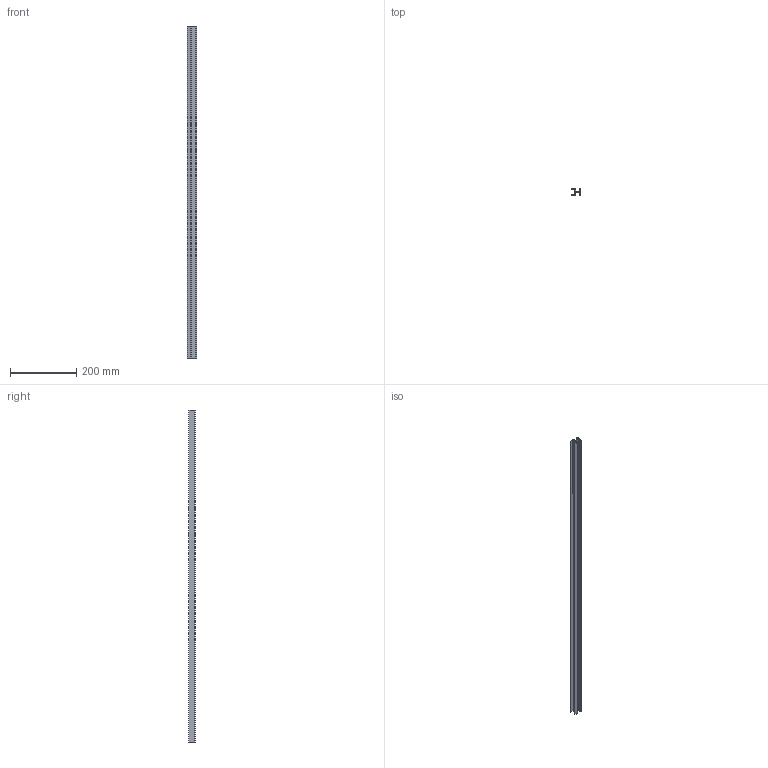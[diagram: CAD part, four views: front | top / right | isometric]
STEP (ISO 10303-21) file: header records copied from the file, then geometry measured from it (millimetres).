
FILE_DESCRIPTION(/* description */ (''),/* implementation_level */ '2;1');
FILE_NAME(/* name */ 'C:\Users\Agata\Desktop\Profile uproszczone\LUCAS13_uproszczony_R3D.stp',/* time_stamp */ '2026-03-30T15:28:41+02:00',/* author */ ('Agata'),/* organization */ (''),/* preprocessor_version */ 'ST-DEVELOPER v18.1',/* originating_system */ 'Autodesk Inventor 2022',/* authorisation */ '');
FILE_SCHEMA (('AUTOMOTIVE_DESIGN { 1 0 10303 214 3 1 1 }'));
Length unit declared in the file: millimetre
Products named in the file (1): LUCAS13_uproszczony_R3D
Bounding box: 27.8 x 20.25 x 1000 mm (x, y, z)
Volume: 110300.4 mm3; surface area: 180359.2 mm2
Topology: 1 solids, 1 shells, 65 faces, 189 edges, 126 vertices
Faces by surface type: plane 64, cylinder 1
Entity records: 2146 total; most frequent: CARTESIAN_POINT 381, ORIENTED_EDGE 378, DIRECTION 323, EDGE_CURVE 189, LINE 187, VECTOR 187, VERTEX_POINT 126, AXIS2_PLACEMENT_3D 68
